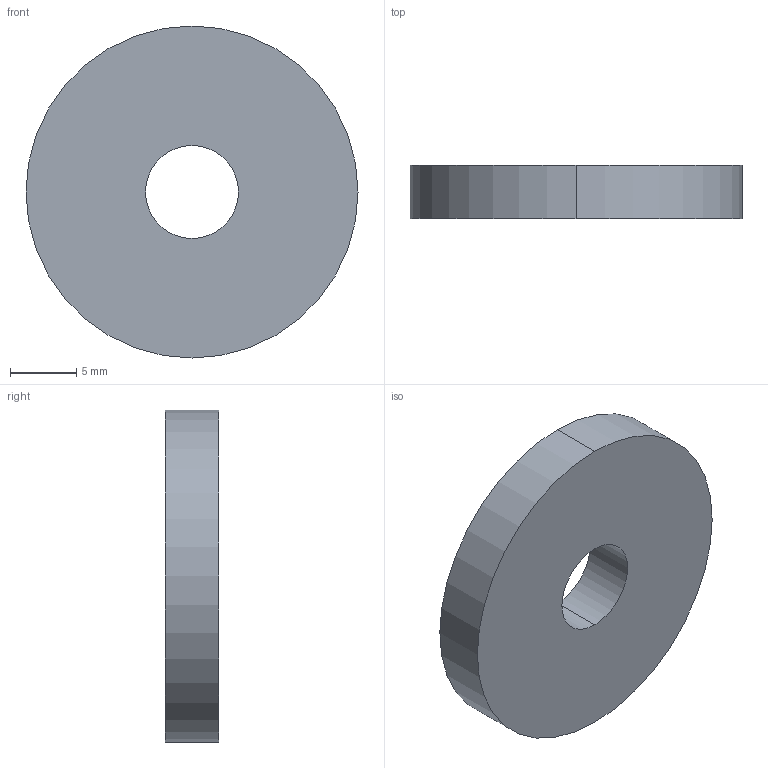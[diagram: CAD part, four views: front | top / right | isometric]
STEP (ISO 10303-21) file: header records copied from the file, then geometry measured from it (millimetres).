
FILE_DESCRIPTION (( 'STEP AP203' ), '1' );
FILE_NAME ('013.100.034.STEP', '2021-03-22T07:40:43', ( '' ), ( '' ), 'SwSTEP 2.0', 'SolidWorks 2018', '' );
FILE_SCHEMA (( 'CONFIG_CONTROL_DESIGN' ));
Length unit declared in the file: millimetre
Products named in the file (1): 013.100.034
Bounding box: 25 x 4 x 25 mm (x, y, z)
Volume: 1809.6 mm3; surface area: 1306.9 mm2
Topology: 1 solids, 1 shells, 6 faces, 12 edges, 8 vertices
Faces by surface type: cylinder 4, plane 2
Entity records: 245 total; most frequent: DIRECTION 34, CARTESIAN_POINT 27, ORIENTED_EDGE 24, AXIS2_PLACEMENT_3D 15, EDGE_CURVE 12, PERSON_AND_ORGANIZATION 8, VERTEX_POINT 8, EDGE_LOOP 8
